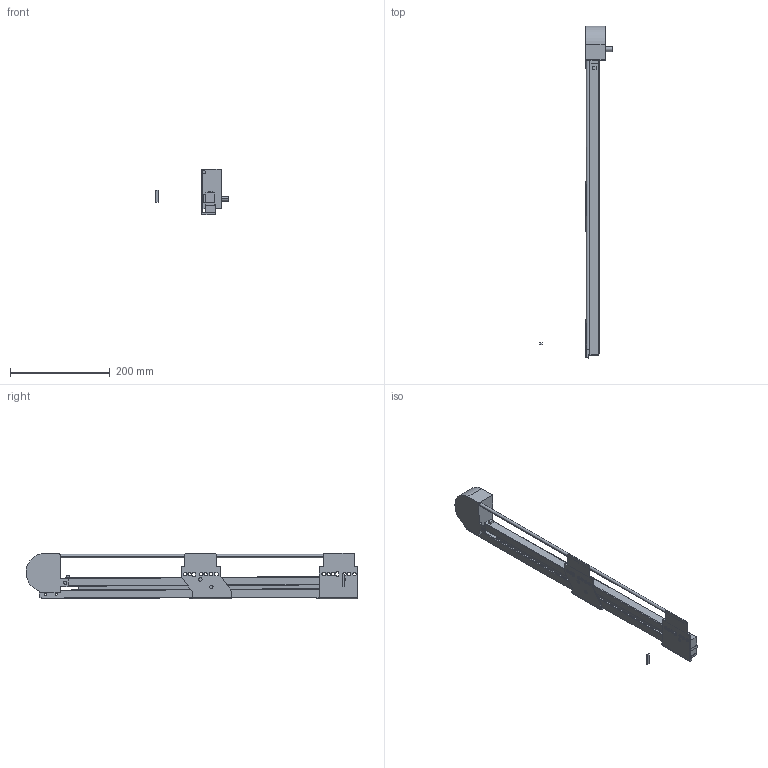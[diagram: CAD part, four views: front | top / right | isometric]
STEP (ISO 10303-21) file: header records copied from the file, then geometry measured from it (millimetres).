
FILE_DESCRIPTION (( 'STEP AP214' ), '1' );
FILE_NAME ('_IMOS_NOVA-Pro_Sensotronic_KS_P907_LI_NL-600_EB29mm.step', '2010-07-23T08:20:10', ( 'grass' ), ( '' ), 'SwSTEP 2.0', 'SolidWorks 2009', '' );
FILE_SCHEMA (( 'AUTOMOTIVE_DESIGN' ));
Length unit declared in the file: millimetre
Products named in the file (1): _IMOS_NOVA-Pro_Sensotronic_KS_P907_LI_NL-600_EB29mm
Bounding box: 145.8 x 666.61 x 91.89 mm (x, y, z)
Volume: 636538.1 mm3; surface area: 154768.7 mm2
Topology: 3 solids, 3 shells, 160 faces, 452 edges, 300 vertices
Faces by surface type: plane 96, cylinder 64
Entity records: 5323 total; most frequent: CARTESIAN_POINT 937, ORIENTED_EDGE 904, DIRECTION 893, EDGE_CURVE 452, LINE 317, VECTOR 317, VERTEX_POINT 300, AXIS2_PLACEMENT_3D 288
